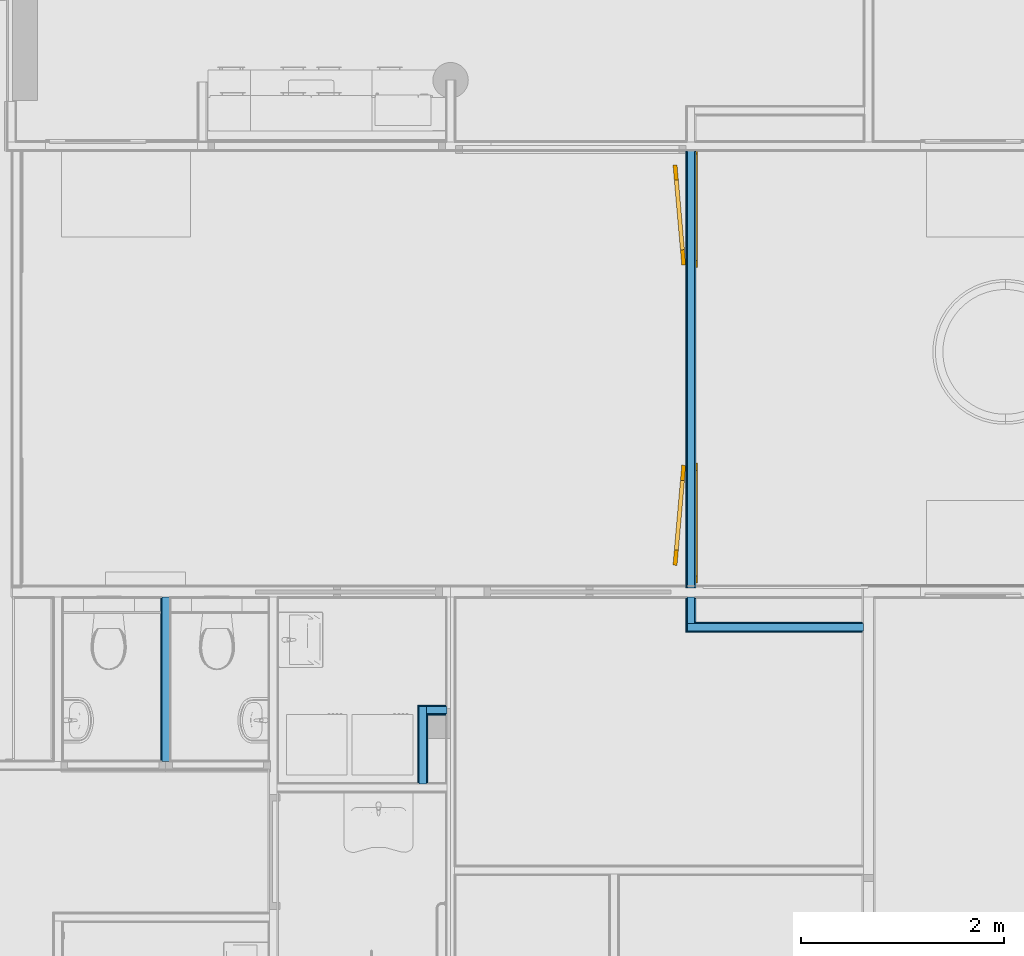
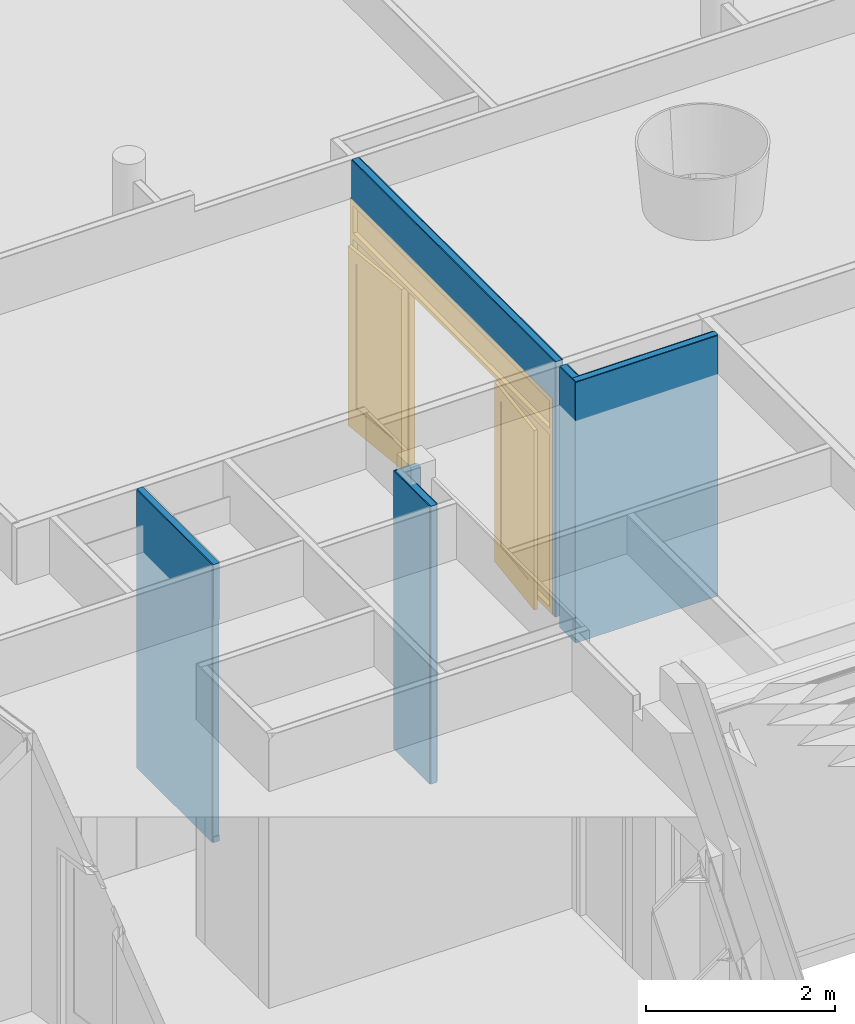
# One storey, part 72 of 167: 17 building element parts, 1 door, 1 opening, 6 elements without a shape of their own.
"""IFC2X3 building model written with IfcOpenShell, lengths in millimetres."""

from ifc_helpers import new_model, entity, si_unit, converted_unit, derived_unit, money_unit, direction, frame, origin_with_axes, place, context, subcontext, project, spatial, open_shell, faceted_brep, surface_model, material, type_object, element, fill, aggregate, save


model = new_model("IFC2X3")

# Units and contexts
model_context = context("Model", 3, precision=0.01, world=origin_with_axes(), true_north=direction((0.0, 1.0)))
plan_context = context("Plan", 3, precision=0.01, world=origin_with_axes(), true_north=direction((0.0, 1.0)))
body_context = subcontext(model_context, "Body", "Model", "MODEL_VIEW")
ifc_project = project(units=[si_unit("LENGTHUNIT", "METRE", prefix="MILLI"), si_unit("AREAUNIT", "SQUARE_METRE"), si_unit("VOLUMEUNIT", "CUBIC_METRE"), converted_unit("PLANEANGLEUNIT", "DEGREE", entity("IfcPlaneAngleMeasure", 0.0174532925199), si_unit("PLANEANGLEUNIT", "RADIAN"), dimensions=[0, 0, 0, 0, 0, 0, 0]), si_unit("SOLIDANGLEUNIT", "STERADIAN"), money_unit("EUR"), converted_unit("TIMEUNIT", "Year", entity("IfcTimeMeasure", 31556926.0), si_unit("TIMEUNIT", "SECOND"), dimensions=[0, 0, 1, 0, 0, 0, 0]), si_unit("MASSUNIT", "GRAM", prefix="KILO"), si_unit("THERMODYNAMICTEMPERATUREUNIT", "DEGREE_CELSIUS"), si_unit("LUMINOUSINTENSITYUNIT", "LUMEN"), si_unit("ENERGYUNIT", "JOULE", prefix="MEGA"), derived_unit("THERMALCONDUCTANCEUNIT", [(si_unit("POWERUNIT", "WATT"), 1), (si_unit("LENGTHUNIT", "METRE"), -1), (si_unit("THERMODYNAMICTEMPERATUREUNIT", "KELVIN"), -1)]), derived_unit("SPECIFICHEATCAPACITYUNIT", [(si_unit("ENERGYUNIT", "JOULE"), 1), (si_unit("MASSUNIT", "GRAM", prefix="KILO"), -1), (si_unit("THERMODYNAMICTEMPERATUREUNIT", "KELVIN"), -1)]), derived_unit("MASSDENSITYUNIT", [(si_unit("MASSUNIT", "GRAM", prefix="KILO"), 1), (si_unit("VOLUMEUNIT", "CUBIC_METRE"), -1)])], contexts=[model_context, plan_context])

# Site, building, storey
site_placement = place(None, origin_with_axes())
site = spatial("IfcSite", under=ifc_project, at=site_placement, Name="Site", CompositionType="ELEMENT")
building_placement = place(site_placement, origin_with_axes())
building = spatial("IfcBuilding", under=site, at=building_placement, Name="Naam gebouw", CompositionType="ELEMENT")
storey_placement = place(building_placement, origin_with_axes())
storey = spatial("IfcBuildingStorey", under=building, at=storey_placement, Name="Begane grond", CompositionType="ELEMENT", Elevation=0.0)

# Door
door_style = type_object("IfcDoorStyle", Name="D2 bl zl2 24", ConstructionType="NOTDEFINED", OperationType="USERDEFINED", ParameterTakesPrecedence=False, Sizeable=False)
wall_4_placement = place(storey_placement, frame((31171.7968849, 37337.5, 0.0), z_axis=(0.0, 0.0, 1.0), x_axis=(0.0, 1.0, 0.0)))
opening_placement = place(wall_4_placement, frame((2200.0, 0.0, 0.0), z_axis=(0.0, 0.0, 1.0), x_axis=(1.0, 0.0, 0.0)))
door_placement = place(opening_placement, frame((-2150.0, 0.0, 0.0), z_axis=(0.0, 0.0, 1.0), x_axis=(1.0, 0.0, 0.0)))
door = element("IfcDoor", 1, at=door_placement, inside=storey, type_object=door_style, Name="32_Deur_Hi-25", ObjectType="DOOR", OverallHeight=2800.0, OverallWidth=4300.0, context=body_context, shape_type="SurfaceModel", body=[
    faceted_brep([(4300.0, 50.0, 0.0), (4300.0, -64.0, 0.0), (4233.0, -64.0, 0.0), (4233.0, 50.0, 0.0), (4300.0, 50.0, 2733.0), (4300.0, -64.0, 2733.0), (4233.0, -64.0, 2733.0), (4233.0, -64.0, 2375.0), (4233.0, -64.0, 2300.0), (4233.0, -64.0, 67.0), (4233.0, 50.0, 67.0), (4233.0, 50.0, 2300.0), (4233.0, 50.0, 2375.0), (4233.0, 50.0, 2733.0)], [[[0, 1, 2, 3]], [[4, 5, 1, 0]], [[1, 5, 6, 7, 8, 9, 2]], [[3, 2, 9, 10]], [[0, 3, 10, 11, 12, 13, 4]], [[13, 6, 5, 4]], [[12, 7, 6, 13]], [[11, 8, 7, 12]], [[10, 9, 8, 11]]]),
    faceted_brep([(3115.5, 10.0, 0.0), (3115.5, -64.0, 0.0), (3115.5, -64.0, 2300.0), (3115.5, 10.0, 2300.0), (3140.5, 10.0, 0.0), (3140.5, 50.0, 0.0), (3182.5, 50.0, 0.0), (3182.5, -64.0, 0.0), (3182.5, -64.0, 67.0), (3182.5, -64.0, 2300.0), (3140.5, 10.0, 2300.0), (3182.5, 50.0, 2300.0), (3140.5, 50.0, 2300.0), (3182.5, 50.0, 67.0)], [[[0, 1, 2, 3]], [[4, 5, 6, 7, 1, 0]], [[7, 8, 9, 2, 1]], [[10, 3, 2, 9, 11, 12]], [[10, 4, 0, 3]], [[12, 5, 4, 10]], [[12, 11, 13, 6, 5]], [[6, 13, 8, 7]], [[13, 11, 9, 8]]]),
    faceted_brep([(4233.0, 50.0, 67.0), (4233.0, -64.0, 67.0), (4233.0, -64.0, 0.0), (4233.0, 50.0, 0.0), (3182.5, 50.0, 67.0), (3182.5, -64.0, 67.0), (3182.5, -64.0, 0.0), (3182.5, 50.0, 0.0)], [[[0, 1, 2, 3]], [[4, 5, 1, 0]], [[1, 5, 6, 2]], [[3, 2, 6, 7]], [[0, 3, 7, 4]], [[7, 6, 5, 4]]]),
    faceted_brep([(0.0, 50.0, 0.0), (0.0, -64.0, 0.0), (0.0, -64.0, 2733.0), (0.0, 50.0, 2733.0), (67.0, 50.0, 0.0), (67.0, -64.0, 0.0), (67.0, -64.0, 67.0), (67.0, -64.0, 2300.0), (67.0, -64.0, 2375.0), (67.0, -64.0, 2733.0), (67.0, 50.0, 2733.0), (67.0, 50.0, 2375.0), (67.0, 50.0, 2300.0), (67.0, 50.0, 67.0)], [[[0, 1, 2, 3]], [[4, 5, 1, 0]], [[1, 5, 6, 7, 8, 9, 2]], [[3, 2, 9, 10]], [[0, 3, 10, 11, 12, 13, 4]], [[13, 6, 5, 4]], [[12, 7, 6, 13]], [[11, 8, 7, 12]], [[10, 9, 8, 11]]]),
    faceted_brep([(1159.5, 10.0, 2300.0), (1159.5, 50.0, 2300.0), (1109.5, 50.0, 2300.0), (1109.5, -64.0, 2300.0), (1184.5, -64.0, 2300.0), (1184.5, 10.0, 2300.0), (1159.5, 10.0, 0.0), (1159.5, 50.0, 0.0), (1109.5, 50.0, 0.0), (1109.5, 50.0, 67.0), (1109.5, -64.0, 67.0), (1184.5, -64.0, 0.0), (1109.5, -64.0, 0.0), (1184.5, 10.0, 0.0)], [[[0, 1, 2, 3, 4, 5]], [[0, 6, 7, 1]], [[7, 8, 9, 2, 1]], [[2, 9, 10, 3]], [[11, 4, 3, 10, 12]], [[5, 4, 11, 13]], [[5, 13, 6, 0]], [[6, 13, 11, 12, 8, 7]], [[9, 8, 12, 10]]]),
    faceted_brep([(1109.5, 50.0, 67.0), (1109.5, -64.0, 67.0), (1109.5, -64.0, 0.0), (1109.5, 50.0, 0.0), (67.0, 50.0, 67.0), (67.0, -64.0, 67.0), (67.0, -64.0, 0.0), (67.0, 50.0, 0.0)], [[[0, 1, 2, 3]], [[4, 5, 1, 0]], [[1, 5, 6, 2]], [[3, 2, 6, 7]], [[0, 3, 7, 4]], [[7, 6, 5, 4]]]),
    faceted_brep([(4300.0, 50.0, 2800.0), (4300.0, -64.0, 2800.0), (4300.0, -64.0, 2733.0), (4300.0, 50.0, 2733.0), (0.0, 50.0, 2800.0), (0.0, -64.0, 2800.0), (0.0, -64.0, 2733.0), (67.0, -64.0, 2733.0), (4233.0, -64.0, 2733.0), (4233.0, 50.0, 2733.0), (67.0, 50.0, 2733.0), (0.0, 50.0, 2733.0)], [[[0, 1, 2, 3]], [[4, 5, 1, 0]], [[1, 5, 6, 7, 8, 2]], [[3, 2, 8, 9]], [[0, 3, 9, 10, 11, 4]], [[11, 6, 5, 4]], [[10, 7, 6, 11]], [[9, 8, 7, 10]]]),
    faceted_brep([(3140.5, 50.0, 2325.0), (1159.5, 50.0, 2325.0), (1159.5, 50.0, 2300.0), (1109.5, 50.0, 2300.0), (67.0, 50.0, 2300.0), (67.0, 50.0, 2375.0), (4233.0, 50.0, 2375.0), (4233.0, 50.0, 2300.0), (3182.5, 50.0, 2300.0), (3140.5, 50.0, 2300.0), (3140.5, 10.0, 2325.0), (1159.5, 10.0, 2325.0), (1159.5, 10.0, 2300.0), (1184.5, 10.0, 2300.0), (1184.5, -64.0, 2300.0), (1109.5, -64.0, 2300.0), (67.0, -64.0, 2300.0), (67.0, -64.0, 2375.0), (4233.0, -64.0, 2375.0), (4233.0, -64.0, 2300.0), (3182.5, -64.0, 2300.0), (3140.5, 10.0, 2300.0), (3115.5, -64.0, 2300.0), (3115.5, 10.0, 2300.0)], [[[0, 1, 2, 3, 4, 5, 6, 7, 8, 9]], [[0, 10, 11, 1]], [[1, 11, 12, 2]], [[12, 13, 14, 15, 3, 2]], [[4, 3, 15, 16]], [[5, 4, 16, 17]], [[6, 5, 17, 18]], [[7, 6, 18, 19]], [[8, 7, 19, 20]], [[21, 9, 8, 20, 22, 23]], [[9, 21, 10, 0]], [[12, 11, 10, 21, 23, 13]], [[23, 22, 14, 13]], [[16, 15, 14, 22, 20, 19, 18, 17]]]),
    faceted_brep([(1159.5, 50.0, 300.0), (1010.07079529, 63.0733614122, 300.0), (1013.557025, 102.921149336, 300.0), (1162.98622971, 89.8477879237, 300.0), (1159.5, 50.0, 2175.0), (1010.07079529, 63.0733614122, 2175.0), (1013.557025, 102.921149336, 2175.0), (1162.98622971, 89.8477879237, 2175.0)], [[[0, 1, 2, 3]], [[0, 4, 5, 1]], [[1, 5, 6, 2]], [[3, 2, 6, 7]], [[4, 0, 3, 7]], [[5, 4, 7, 6]]]),
    faceted_brep([(172.76915154, 136.327763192, 300.0), (172.76915154, 136.327763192, 2175.0), (176.25538125, 176.175551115, 2175.0), (176.25538125, 176.175551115, 300.0), (322.198356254, 123.254401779, 300.0), (322.198356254, 123.254401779, 2175.0), (325.684585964, 163.102189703, 2175.0), (325.684585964, 163.102189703, 300.0)], [[[0, 1, 2, 3]], [[0, 4, 5, 1]], [[1, 5, 6, 2]], [[3, 2, 6, 7]], [[4, 0, 3, 7]], [[5, 4, 7, 6]]]),
    faceted_brep([(1159.5, 50.0, 0.0), (172.76915154, 136.327763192, 0.0), (176.25538125, 176.175551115, 0.0), (1162.98622971, 89.8477879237, 0.0), (1159.5, 50.0, 300.0), (1010.07079529, 63.0733614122, 300.0), (322.198356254, 123.254401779, 300.0), (172.76915154, 136.327763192, 300.0), (176.25538125, 176.175551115, 300.0), (325.684585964, 163.102189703, 300.0), (1013.557025, 102.921149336, 300.0), (1162.98622971, 89.8477879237, 300.0)], [[[0, 1, 2, 3]], [[0, 4, 5, 6, 7, 1]], [[1, 7, 8, 2]], [[3, 2, 8, 9, 10, 11]], [[4, 0, 3, 11]], [[5, 4, 11, 10]], [[6, 5, 10, 9]], [[7, 6, 9, 8]]]),
    faceted_brep([(1159.5, 50.0, 2325.0), (1159.5, 50.0, 2175.0), (1162.98622971, 89.8477879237, 2175.0), (1162.98622971, 89.8477879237, 2325.0), (172.76915154, 136.327763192, 2325.0), (172.76915154, 136.327763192, 2175.0), (322.198356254, 123.254401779, 2175.0), (1010.07079529, 63.0733614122, 2175.0), (1013.557025, 102.921149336, 2175.0), (325.684585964, 163.102189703, 2175.0), (176.25538125, 176.175551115, 2175.0), (176.25538125, 176.175551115, 2325.0)], [[[0, 1, 2, 3]], [[0, 4, 5, 6, 7, 1]], [[1, 7, 8, 2]], [[3, 2, 8, 9, 10, 11]], [[4, 0, 3, 11]], [[5, 4, 11, 10]], [[6, 5, 10, 9]], [[7, 6, 9, 8]]]),
    surface_model("IfcShellBasedSurfaceModel", [(1011.29097568, 77.0200871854, 300.0), (1011.29097568, 77.0200871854, 2175.0), (323.418536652, 137.201127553, 2175.0), (323.418536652, 137.201127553, 300.0)], [open_shell([[[0, 1, 2, 3]]])]),
    surface_model("IfcShellBasedSurfaceModel", [(1012.3368446, 88.9744235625, 300.0), (324.464405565, 149.15546393, 300.0), (324.464405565, 149.15546393, 2175.0), (1012.3368446, 88.9744235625, 2175.0)], [open_shell([[[0, 1, 2, 3]]])]),
    faceted_brep([(3140.5, 50.0, 300.0), (3137.01377029, 89.8477879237, 300.0), (3286.442975, 102.921149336, 300.0), (3289.92920471, 63.0733614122, 300.0), (3140.5, 50.0, 2175.0), (3137.01377029, 89.8477879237, 2175.0), (3286.442975, 102.921149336, 2175.0), (3289.92920471, 63.0733614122, 2175.0)], [[[0, 1, 2, 3]], [[4, 5, 1, 0]], [[1, 5, 6, 2]], [[3, 2, 6, 7]], [[0, 3, 7, 4]], [[7, 6, 5, 4]]]),
    faceted_brep([(4127.23084846, 136.327763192, 300.0), (4123.74461875, 176.175551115, 300.0), (4123.74461875, 176.175551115, 2175.0), (4127.23084846, 136.327763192, 2175.0), (3977.80164375, 123.254401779, 300.0), (3974.31541404, 163.102189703, 300.0), (3974.31541404, 163.102189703, 2175.0), (3977.80164375, 123.254401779, 2175.0)], [[[0, 1, 2, 3]], [[4, 5, 1, 0]], [[1, 5, 6, 2]], [[3, 2, 6, 7]], [[0, 3, 7, 4]], [[7, 6, 5, 4]]]),
    faceted_brep([(3140.5, 50.0, 0.0), (3137.01377029, 89.8477879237, 0.0), (4123.74461875, 176.175551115, 0.0), (4127.23084846, 136.327763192, 0.0), (3140.5, 50.0, 300.0), (3137.01377029, 89.8477879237, 300.0), (3286.442975, 102.921149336, 300.0), (3974.31541404, 163.102189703, 300.0), (4123.74461875, 176.175551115, 300.0), (4127.23084846, 136.327763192, 300.0), (3977.80164375, 123.254401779, 300.0), (3289.92920471, 63.0733614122, 300.0)], [[[0, 1, 2, 3]], [[4, 5, 1, 0]], [[1, 5, 6, 7, 8, 2]], [[3, 2, 8, 9]], [[0, 3, 9, 10, 11, 4]], [[11, 6, 5, 4]], [[10, 7, 6, 11]], [[9, 8, 7, 10]]]),
    faceted_brep([(3140.5, 50.0, 2325.0), (3137.01377029, 89.8477879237, 2325.0), (3137.01377029, 89.8477879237, 2175.0), (3140.5, 50.0, 2175.0), (4127.23084846, 136.327763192, 2325.0), (4123.74461875, 176.175551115, 2325.0), (4123.74461875, 176.175551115, 2175.0), (3974.31541404, 163.102189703, 2175.0), (3286.442975, 102.921149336, 2175.0), (3289.92920471, 63.0733614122, 2175.0), (3977.80164375, 123.254401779, 2175.0), (4127.23084846, 136.327763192, 2175.0)], [[[0, 1, 2, 3]], [[4, 5, 1, 0]], [[1, 5, 6, 7, 8, 2]], [[3, 2, 8, 9]], [[0, 3, 9, 10, 11, 4]], [[11, 6, 5, 4]], [[10, 7, 6, 11]], [[9, 8, 7, 10]]]),
    surface_model("IfcShellBasedSurfaceModel", [(3288.70902432, 77.0200871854, 300.0), (3976.58146335, 137.201127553, 300.0), (3976.58146335, 137.201127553, 2175.0), (3288.70902432, 77.0200871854, 2175.0)], [open_shell([[[0, 1, 2, 3]]])]),
    surface_model("IfcShellBasedSurfaceModel", [(3287.6631554, 88.9744235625, 300.0), (3287.6631554, 88.9744235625, 2175.0), (3975.53559443, 149.15546393, 2175.0), (3975.53559443, 149.15546393, 300.0)], [open_shell([[[0, 1, 2, 3]]])]),
    surface_model("IfcShellBasedSurfaceModel", [(4233.0, -4.0, 2375.0), (67.0, -4.0, 2375.0), (67.0, -4.0, 2733.0), (4233.0, -4.0, 2733.0)], [open_shell([[[0, 1, 2, 3]]])]),
    surface_model("IfcShellBasedSurfaceModel", [(4233.0, -16.0, 2375.0), (4233.0, -16.0, 2733.0), (67.0, -16.0, 2733.0), (67.0, -16.0, 2375.0)], [open_shell([[[0, 1, 2, 3]]])]),
    surface_model("IfcShellBasedSurfaceModel", [(4233.0, -4.0, 67.0), (3182.5, -4.0, 67.0), (3182.5, -4.0, 2300.0), (4233.0, -4.0, 2300.0)], [open_shell([[[0, 1, 2, 3]]])]),
    surface_model("IfcShellBasedSurfaceModel", [(4233.0, -16.0, 67.0), (4233.0, -16.0, 2300.0), (3182.5, -16.0, 2300.0), (3182.5, -16.0, 67.0)], [open_shell([[[0, 1, 2, 3]]])]),
    surface_model("IfcShellBasedSurfaceModel", [(1109.5, -4.0, 67.0), (67.0, -4.0, 67.0), (67.0, -4.0, 2300.0), (1109.5, -4.0, 2300.0)], [open_shell([[[0, 1, 2, 3]]])]),
    surface_model("IfcShellBasedSurfaceModel", [(1109.5, -16.0, 67.0), (1109.5, -16.0, 2300.0), (67.0, -16.0, 2300.0), (67.0, -16.0, 67.0)], [open_shell([[[0, 1, 2, 3]]])]),
])

# Wall, building element parts
wall_type = type_object("IfcWallType", Name="_TenW_22_Metalstud 100 enkel gipsvezelplaat 100", PredefinedType="NOTDEFINED")
wall_1_placement = place(storey_placement, frame((25987.5000132, 37300.0, -100.0), z_axis=(0.0, 0.0, 1.0), x_axis=(0.0, -1.0, 0.0)))
wall_1 = element("IfcWall", 2, at=wall_1_placement, inside=storey, type_object=wall_type, Name="22_Wand_Wand-x")
ifc_material_1 = material(Name="Isolatie - Steenwol zacht")
building_element_part_1_placement = place(wall_1_placement, origin_with_axes())
building_element_part_1 = element("IfcBuildingElementPart", 3, at=building_element_part_1_placement, material=ifc_material_1, Name="Isolatie - Steenwol zacht", context=body_context, shape_type="Brep", body=[
    faceted_brep([(1676.1468363, 37.5, 2900.0), (1676.14683782, -37.5, 2900.0), (1663.64681553, -37.5, 2900.0), (1663.64681553, 37.5, 2900.0), (1676.1468363, 37.5, 3630.0), (1676.14683782, -37.5, 3630.0), (50.0, -37.5, 3630.0), (50.0, -37.5, 30.0), (1676.14683782, -37.5, 30.0), (1676.14683782, -37.5, 100.0), (1663.64681553, -37.5, 100.0), (1663.64681553, 37.5, 100.0), (1676.1468363, 37.5, 100.0), (1676.1468363, 37.5, 30.0), (50.0, 37.5, 30.0), (50.0, 37.5, 3630.0)], [[[0, 1, 2, 3]], [[1, 0, 4, 5]], [[2, 1, 5, 6, 7, 8, 9, 10]], [[3, 2, 10, 11]], [[11, 12, 13, 14, 15, 4, 0, 3]], [[6, 5, 4, 15]], [[15, 14, 7, 6]], [[8, 7, 14, 13]], [[9, 8, 13, 12]], [[10, 9, 12, 11]]]),
])
ifc_material_2 = material(Name="Gipsplaat watervast")
building_element_part_2_placement = place(wall_1_placement, origin_with_axes())
building_element_part_2 = element("IfcBuildingElementPart", 4, at=building_element_part_2_placement, material=ifc_material_2, Name="Gipsplaat watervast", context=body_context, shape_type="Brep", body=[
    faceted_brep([(1663.64683782, -37.5, 3630.0), (1663.64683782, -37.5, 30.0), (62.5, -37.5, 30.0), (62.5, -37.5, 3630.0), (1663.64683807, -50.0, 3630.0), (1663.64683807, -50.0, 30.0), (62.5, -50.0, 30.0), (62.5, -50.0, 3630.0)], [[[0, 1, 2, 3]], [[4, 5, 1, 0]], [[5, 6, 2, 1]], [[3, 2, 6, 7]], [[3, 7, 4, 0]], [[7, 6, 5, 4]]]),
])
aggregate(wall_1, [building_element_part_1, building_element_part_2])

wall_2_placement = place(storey_placement, frame((32925.2814665, 36950.0, -100.0), z_axis=(0.0, 0.0, 1.0), x_axis=(-1.0, 0.0, 0.0)))
wall_2 = element("IfcWall", 5, at=wall_2_placement, inside=storey, type_object=wall_type, Name="22_Wand_Wand-x")
building_element_part_3_placement = place(wall_2_placement, origin_with_axes())
building_element_part_3 = element("IfcBuildingElementPart", 6, at=building_element_part_3_placement, material=ifc_material_2, Name="Gipsplaat watervast", context=body_context, shape_type="Brep", body=[
    faceted_brep([(1803.48458158, 37.5, 3405.0), (62.5, 37.5, 3405.0), (62.5, 37.5, 30.0), (1803.48458158, 37.5, 30.0), (62.5, 50.0, 3405.0), (1803.48458158, 50.0, 3405.0), (62.5, 50.0, 30.0), (1803.48458158, 50.0, 30.0)], [[[0, 1, 2, 3]], [[4, 1, 0, 5]], [[1, 4, 6, 2]], [[3, 2, 6, 7]], [[5, 0, 3, 7]], [[4, 5, 7, 6]]]),
])
building_element_part_4_placement = place(wall_2_placement, origin_with_axes())
building_element_part_4 = element("IfcBuildingElementPart", 7, at=building_element_part_4_placement, material=ifc_material_1, Name="Isolatie - Steenwol zacht", context=body_context, shape_type="Brep", body=[
    faceted_brep([(1790.98458158, -37.5, 3405.0), (50.0, -37.5, 3405.0), (50.0, -37.5, 30.0), (1790.98458158, -37.5, 30.0), (50.0, 37.5, 3405.0), (1790.98458158, 37.5, 3405.0), (50.0, 37.5, 30.0), (1790.98458158, 37.5, 30.0)], [[[0, 1, 2, 3]], [[4, 1, 0, 5]], [[1, 4, 6, 2]], [[3, 2, 6, 7]], [[5, 0, 3, 7]], [[4, 5, 7, 6]]]),
])
building_element_part_5_placement = place(wall_2_placement, origin_with_axes())
building_element_part_5 = element("IfcBuildingElementPart", 8, at=building_element_part_5_placement, material=ifc_material_2, Name="Gipsplaat watervast", context=body_context, shape_type="Brep", body=[
    faceted_brep([(1715.98458158, -50.0, 3405.0), (62.5, -50.0, 3405.0), (62.5, -50.0, 30.0), (1715.98458158, -50.0, 30.0), (62.5, -37.5, 3405.0), (1715.98458158, -37.5, 3405.0), (62.5, -37.5, 30.0), (1715.98458158, -37.5, 30.0)], [[[0, 1, 2, 3]], [[4, 1, 0, 5]], [[1, 4, 6, 2]], [[3, 2, 6, 7]], [[5, 0, 3, 7]], [[4, 5, 7, 6]]]),
])
aggregate(wall_2, [building_element_part_3, building_element_part_4, building_element_part_5])

wall_3_placement = place(storey_placement, frame((31171.7968849, 36950.0, -100.0), z_axis=(0.0, 0.0, 1.0), x_axis=(0.0, 1.0, 0.0)))
wall_3 = element("IfcWall", 9, at=wall_3_placement, inside=storey, type_object=wall_type, Name="22_Wand_Wand-x")
building_element_part_6_placement = place(wall_3_placement, origin_with_axes())
building_element_part_6 = element("IfcBuildingElementPart", 10, at=building_element_part_6_placement, material=ifc_material_2, Name="Gipsplaat watervast", context=body_context, shape_type="Brep", body=[
    faceted_brep([(287.5, 50.0, 3405.0), (287.5, 37.5, 3405.0), (287.5, 37.5, 30.0), (287.5, 50.0, 30.0), (-37.5, 37.5, 3405.0), (-37.5, 50.0, 3405.0), (-37.5, 37.5, 30.0), (-37.5, 50.0, 30.0)], [[[0, 1, 2, 3]], [[4, 1, 0, 5]], [[1, 4, 6, 2]], [[3, 2, 6, 7]], [[5, 0, 3, 7]], [[4, 5, 7, 6]]]),
])
building_element_part_7_placement = place(wall_3_placement, origin_with_axes())
building_element_part_7 = element("IfcBuildingElementPart", 11, at=building_element_part_7_placement, material=ifc_material_1, Name="Isolatie - Steenwol zacht", context=body_context, shape_type="Brep", body=[
    faceted_brep([(300.0, 37.5, 3405.0), (300.0, -37.5, 3405.0), (300.0, -37.5, 30.0), (300.0, 37.5, 30.0), (37.5, -37.5, 3405.0), (37.5, 37.5, 3405.0), (37.5, -37.5, 30.0), (37.5, 37.5, 30.0)], [[[0, 1, 2, 3]], [[4, 1, 0, 5]], [[1, 4, 6, 2]], [[3, 2, 6, 7]], [[5, 0, 3, 7]], [[4, 5, 7, 6]]]),
])
building_element_part_8_placement = place(wall_3_placement, origin_with_axes())
building_element_part_8 = element("IfcBuildingElementPart", 12, at=building_element_part_8_placement, material=ifc_material_2, Name="Gipsplaat watervast", context=body_context, shape_type="Brep", body=[
    faceted_brep([(287.5, -37.5, 3405.0), (287.5, -50.0, 3405.0), (287.5, -50.0, 30.0), (287.5, -37.5, 30.0), (50.0, -50.0, 3405.0), (50.0, -37.5, 3405.0), (50.0, -50.0, 30.0), (50.0, -37.5, 30.0)], [[[0, 1, 2, 3]], [[4, 1, 0, 5]], [[1, 4, 6, 2]], [[3, 2, 6, 7]], [[5, 0, 3, 7]], [[4, 5, 7, 6]]]),
])
aggregate(wall_3, [building_element_part_6, building_element_part_7, building_element_part_8])

# Wall, opening
wall_4 = element("IfcWall", 13, at=wall_4_placement, inside=storey, type_object=wall_type, Name="22_Wand_Wand-x")
opening = element("IfcOpeningElement", 14, at=opening_placement, cuts=wall_4, Name="32_Deur_Hi-25", context=body_context, shape_type="Brep", body=[
    faceted_brep([(-2150.0, 200.0, 2800.0), (-2150.0, 200.0, 0.0), (-2150.0, -100.0, 0.0), (-2150.0, -100.0, 2800.0), (2150.0, 200.0, 2800.0), (2150.0, 200.0, 0.0), (2150.0, -100.0, 0.0), (2150.0, -100.0, 2800.0)], [[[0, 1, 2, 3]], [[0, 4, 5, 1]], [[1, 5, 6, 2]], [[3, 2, 6, 7]], [[4, 0, 3, 7]], [[5, 4, 7, 6]]]),
])

fill(opening, door)

# Building element part
building_element_part_9_placement = place(wall_4_placement, origin_with_axes())
building_element_part_9 = element("IfcBuildingElementPart", 15, at=building_element_part_9_placement, material=ifc_material_2, Name="Gipsplaat watervast", context=body_context, shape_type="Brep", body=[
    faceted_brep([(50.0, 37.5, 0.0), (50.0, 37.5, 2800.0), (4312.5, 37.5, 2800.0), (4312.5, 37.5, 3305.0), (0.0, 37.5, 3305.0), (0.0, 37.5, 0.0), (50.0, 50.0, 0.0), (50.0, 50.0, 2800.0), (4312.5, 50.0, 2800.0), (4312.5, 50.0, 3305.0), (0.0, 50.0, 3305.0), (0.0, 50.0, 0.0)], [[[0, 1, 2, 3, 4, 5]], [[1, 0, 6, 7]], [[8, 2, 1, 7]], [[2, 8, 9, 3]], [[3, 9, 10, 4]], [[10, 11, 5, 4]], [[6, 0, 5, 11]], [[7, 6, 11, 10, 9, 8]]]),
])

building_element_part_10_placement = place(wall_4_placement, origin_with_axes())
building_element_part_10 = element("IfcBuildingElementPart", 16, at=building_element_part_10_placement, material=ifc_material_1, Name="Isolatie - Steenwol zacht", context=body_context, shape_type="Brep", body=[
    faceted_brep([(50.0, -37.5, 0.0), (50.0, -37.5, 2800.0), (4325.0, -37.5, 2800.0), (4325.0, -37.5, 3305.0), (0.0, -37.5, 3305.0), (0.0, -37.5, 0.0), (50.0, 37.5, 0.0), (50.0, 37.5, 2800.0), (4325.0, 37.5, 2800.0), (4325.0, 37.5, 3305.0), (0.0, 37.5, 3305.0), (0.0, 37.5, 0.0)], [[[0, 1, 2, 3, 4, 5]], [[1, 0, 6, 7]], [[8, 2, 1, 7]], [[2, 8, 9, 3]], [[3, 9, 10, 4]], [[10, 11, 5, 4]], [[6, 0, 5, 11]], [[7, 6, 11, 10, 9, 8]]]),
])

building_element_part_11_placement = place(wall_4_placement, origin_with_axes())
building_element_part_11 = element("IfcBuildingElementPart", 17, at=building_element_part_11_placement, material=ifc_material_2, Name="Gipsplaat watervast", context=body_context, shape_type="Brep", body=[
    faceted_brep([(50.0, -50.0, 0.0), (50.0, -50.0, 2800.0), (4312.5, -50.0, 2800.0), (4312.5, -50.0, 3305.0), (0.0, -50.0, 3305.0), (0.0, -50.0, 0.0), (50.0, -37.5, 0.0), (50.0, -37.5, 2800.0), (4312.5, -37.5, 2800.0), (4312.5, -37.5, 3305.0), (0.0, -37.5, 3305.0), (0.0, -37.5, 0.0)], [[[0, 1, 2, 3, 4, 5]], [[1, 0, 6, 7]], [[8, 2, 1, 7]], [[2, 8, 9, 3]], [[3, 9, 10, 4]], [[10, 11, 5, 4]], [[6, 0, 5, 11]], [[7, 6, 11, 10, 9, 8]]]),
])

aggregate(wall_4, [building_element_part_9, building_element_part_10, building_element_part_11])

# Wall, building element parts
wall_5_placement = place(storey_placement, frame((28525.0, 36132.5, -100.0), z_axis=(0.0, 0.0, 1.0), x_axis=(0.0, -1.0, 0.0)))
wall_5 = element("IfcWall", 18, at=wall_5_placement, inside=storey, type_object=wall_type, Name="22_Wand_Wand-x")
building_element_part_12_placement = place(wall_5_placement, origin_with_axes())
building_element_part_12 = element("IfcBuildingElementPart", 19, at=building_element_part_12_placement, material=ifc_material_2, Name="Gipsplaat watervast", context=body_context, shape_type="Brep", body=[
    faceted_brep([(715.09999984, 50.0, 30.0), (37.5, 50.0, 30.0), (37.5, 50.0, 3630.0), (715.09999984, 50.0, 3630.0), (37.5, 37.5, 30.0), (715.09999984, 37.5, 30.0), (37.5, 37.5, 3630.0), (715.09999984, 37.5, 3630.0)], [[[0, 1, 2, 3]], [[4, 1, 0, 5]], [[1, 4, 6, 2]], [[7, 3, 2, 6]], [[5, 0, 3, 7]], [[4, 5, 7, 6]]]),
])
building_element_part_13_placement = place(wall_5_placement, origin_with_axes())
building_element_part_13 = element("IfcBuildingElementPart", 20, at=building_element_part_13_placement, material=ifc_material_1, Name="Isolatie - Steenwol zacht", context=body_context, shape_type="Brep", body=[
    faceted_brep([(727.59999984, 37.5, 30.0), (-37.5, 37.5, 30.0), (-37.5, 37.5, 3630.0), (727.59999984, 37.5, 3630.0), (-37.5, -37.5, 30.0), (727.59999984, -37.5, 30.0), (-37.5, -37.5, 3630.0), (727.59999984, -37.5, 3630.0)], [[[0, 1, 2, 3]], [[4, 1, 0, 5]], [[1, 4, 6, 2]], [[7, 3, 2, 6]], [[5, 0, 3, 7]], [[4, 5, 7, 6]]]),
])
building_element_part_14_placement = place(wall_5_placement, origin_with_axes())
building_element_part_14 = element("IfcBuildingElementPart", 21, at=building_element_part_14_placement, material=ifc_material_2, Name="Gipsplaat watervast", context=body_context, shape_type="Brep", body=[
    faceted_brep([(715.09999984, -37.5, 30.0), (-50.0, -37.5, 30.0), (-50.0, -37.5, 3630.0), (715.09999984, -37.5, 3630.0), (-50.0, -50.0, 30.0), (715.09999984, -50.0, 30.0), (-50.0, -50.0, 3630.0), (715.09999984, -50.0, 3630.0)], [[[0, 1, 2, 3]], [[4, 1, 0, 5]], [[1, 4, 6, 2]], [[7, 3, 2, 6]], [[5, 0, 3, 7]], [[4, 5, 7, 6]]]),
])
aggregate(wall_5, [building_element_part_12, building_element_part_13, building_element_part_14])

wall_6_placement = place(storey_placement, frame((28525.0, 36132.5, -100.0), z_axis=(0.0, 0.0, 1.0), x_axis=(1.0, 0.0, 0.0)))
wall_6 = element("IfcWall", 22, at=wall_6_placement, inside=storey, type_object=wall_type, Name="22_Wand_Wand-x")
building_element_part_15_placement = place(wall_6_placement, origin_with_axes())
building_element_part_15 = element("IfcBuildingElementPart", 23, at=building_element_part_15_placement, material=ifc_material_2, Name="Gipsplaat watervast", context=body_context, shape_type="Brep", body=[
    faceted_brep([(225.0, 37.5, 30.0), (225.0, 50.0, 30.0), (225.0, 50.0, 3630.0), (225.0, 37.5, 3630.0), (-37.5, 50.0, 30.0), (-37.5, 37.5, 30.0), (-37.5, 50.0, 3630.0), (-37.5, 37.5, 3630.0)], [[[0, 1, 2, 3]], [[4, 1, 0, 5]], [[1, 4, 6, 2]], [[3, 2, 6, 7]], [[5, 0, 3, 7]], [[4, 5, 7, 6]]]),
])
building_element_part_16_placement = place(wall_6_placement, origin_with_axes())
building_element_part_16 = element("IfcBuildingElementPart", 24, at=building_element_part_16_placement, material=ifc_material_1, Name="Isolatie - Steenwol zacht", context=body_context, shape_type="Brep", body=[
    faceted_brep([(237.5, -37.5, 30.0), (237.5, 37.5, 30.0), (237.5, 37.5, 3630.0), (237.5, -37.5, 3630.0), (37.5, 37.5, 30.0), (37.5, -37.5, 30.0), (37.5, 37.5, 3630.0), (37.5, -37.5, 3630.0)], [[[0, 1, 2, 3]], [[4, 1, 0, 5]], [[1, 4, 6, 2]], [[3, 2, 6, 7]], [[5, 0, 3, 7]], [[4, 5, 7, 6]]]),
])
building_element_part_17_placement = place(wall_6_placement, origin_with_axes())
building_element_part_17 = element("IfcBuildingElementPart", 25, at=building_element_part_17_placement, material=ifc_material_2, Name="Gipsplaat watervast", context=body_context, shape_type="Brep", body=[
    faceted_brep([(225.0, -50.0, 30.0), (225.0, -37.5, 30.0), (225.0, -37.5, 3630.0), (225.0, -50.0, 3630.0), (50.0, -37.5, 30.0), (50.0, -50.0, 30.0), (50.0, -37.5, 3630.0), (50.0, -50.0, 3630.0)], [[[0, 1, 2, 3]], [[4, 1, 0, 5]], [[1, 4, 6, 2]], [[3, 2, 6, 7]], [[5, 0, 3, 7]], [[4, 5, 7, 6]]]),
])
aggregate(wall_6, [building_element_part_15, building_element_part_16, building_element_part_17])

save(model, "model.ifc")
